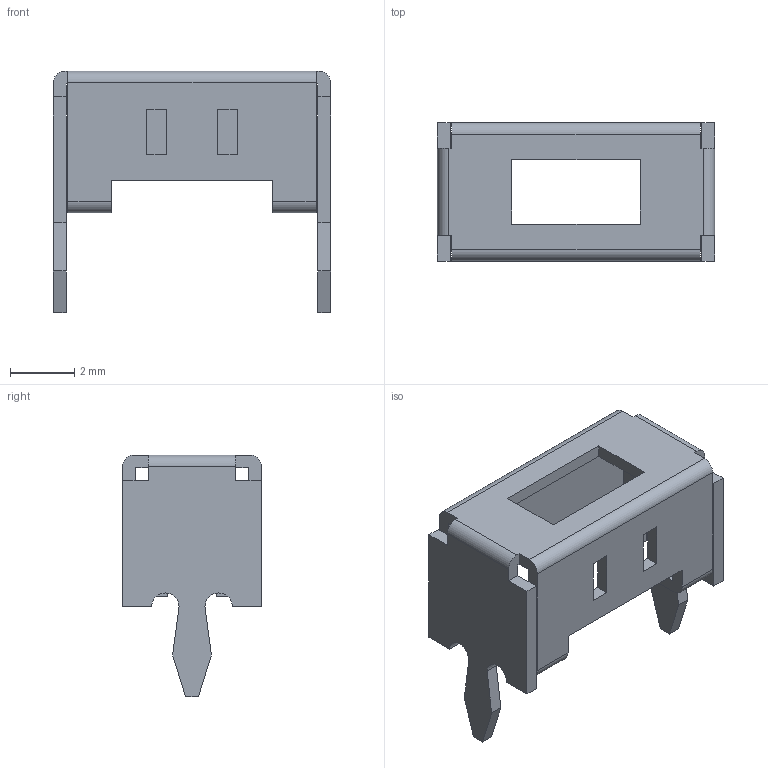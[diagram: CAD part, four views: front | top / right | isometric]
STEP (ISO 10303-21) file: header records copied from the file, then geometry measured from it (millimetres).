
FILE_DESCRIPTION(/* description */ ('STEP AP242 Edition 2','CAx-IF Rec.Pracs.---Representation and Presentation of Product Manufacturing Information (PMI)---4.0---2014-10-13','CAx-IF Rec.Pracs.---3D Tessellated Geometry---0.4---2014-09-14','2;1','CAx-IF Rec.Pracs.---User Defined Attributes---1.5---2016-08-15'),/* implementation_level */ '2;1');
FILE_NAME(/* name */ 'Part Studio 1 - Surface 5',/* time_stamp */ '2026-11-25T23:28:53Z',/* author */ (''),/* organization */ (''),/* preprocessor_version */ 'ST-DEVELOPER v20',/* originating_system */ 'ONSHAPE BY PTC INC, 1.224',/* authorisation */ ' ');
FILE_SCHEMA (('AP242_MANAGED_MODEL_BASED_3D_ENGINEERING_MIM_LF { 1 0 10303 442 3 1 4 }'));
Length unit declared in the file: metre
Products named in the file (1): SW_Slide_SPDT_Straight_CK_OS102011MS2Q
Bounding box: 8.6 x 4.3 x 7.5 mm (x, y, z)
Volume: 48.3 mm3; surface area: 284.5 mm2
Topology: 1 solids, 1 shells, 82 faces, 240 edges, 160 vertices
Faces by surface type: plane 70, cylinder 12
Entity records: 2713 total; most frequent: CARTESIAN_POINT 483, ORIENTED_EDGE 480, DIRECTION 430, EDGE_CURVE 240, LINE 216, VECTOR 216, VERTEX_POINT 160, AXIS2_PLACEMENT_3D 107
